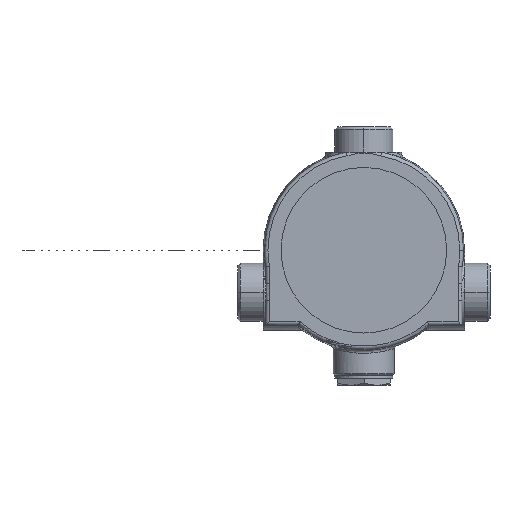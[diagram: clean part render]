
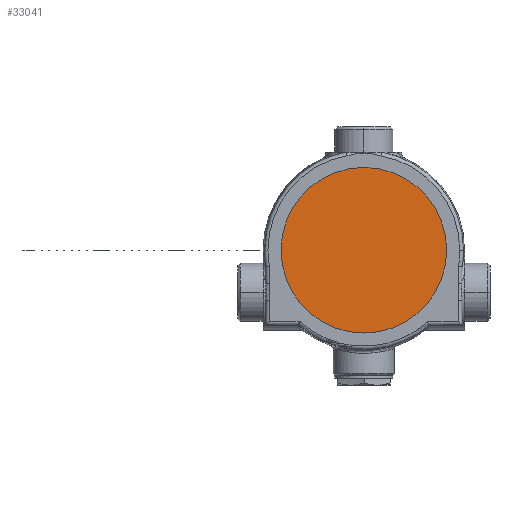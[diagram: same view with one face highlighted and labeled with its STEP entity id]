
A CAD part, top view. The second image highlights one B-rep face of the part: STEP entity #33041.
In plain terms, the highlighted planar face has unit normal (0, 0, 1).
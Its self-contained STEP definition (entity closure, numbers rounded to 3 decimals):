
#3789 = AXIS2_PLACEMENT_3D ( 'NONE', #83894, #29687, #93019 ) ;
#5488 = PLANE ( 'NONE',  #105259 ) ;
#20443 = EDGE_CURVE ( 'NONE', #68645, #38556, #80724, .T. ) ;
#24110 = CARTESIAN_POINT ( 'NONE',  ( 47.25, 0., 54.5 ) ) ;
#27655 = CIRCLE ( 'NONE', #3789, 47.25 ) ;
#29687 = DIRECTION ( 'NONE',  ( 0., 0., -1. ) ) ;
#33041 = ADVANCED_FACE ( 'NONE', ( #106419 ), #5488, .T. ) ;
#38556 = VERTEX_POINT ( 'NONE', #91510 ) ;
#41882 = DIRECTION ( 'NONE',  ( 0., 0., 1. ) ) ;
#45937 = CARTESIAN_POINT ( 'NONE',  ( 0., 0., 54.5 ) ) ;
#55043 = DIRECTION ( 'NONE',  ( -1., 0., 0. ) ) ;
#63111 = EDGE_LOOP ( 'NONE', ( #68155, #74322 ) ) ;
#66242 = EDGE_CURVE ( 'NONE', #38556, #68645, #27655, .T. ) ;
#68155 = ORIENTED_EDGE ( 'NONE', *, *, #66242, .F. ) ;
#68645 = VERTEX_POINT ( 'NONE', #24110 ) ;
#74322 = ORIENTED_EDGE ( 'NONE', *, *, #20443, .F. ) ;
#77909 = CARTESIAN_POINT ( 'NONE',  ( 0., -47.25, 54.5 ) ) ;
#80724 = CIRCLE ( 'NONE', #106355, 47.25 ) ;
#83894 = CARTESIAN_POINT ( 'NONE',  ( 0., 0., 54.5 ) ) ;
#91510 = CARTESIAN_POINT ( 'NONE',  ( -47.25, 0., 54.5 ) ) ;
#93019 = DIRECTION ( 'NONE',  ( -1., 0., 0. ) ) ;
#105104 = DIRECTION ( 'NONE',  ( 1., 0., 0. ) ) ;
#105259 = AXIS2_PLACEMENT_3D ( 'NONE', #77909, #41882, #105104 ) ;
#106355 = AXIS2_PLACEMENT_3D ( 'NONE', #45937, #109133, #55043 ) ;
#106419 = FACE_OUTER_BOUND ( 'NONE', #63111, .T. ) ;
#109133 = DIRECTION ( 'NONE',  ( 0., 0., -1. ) ) ;
